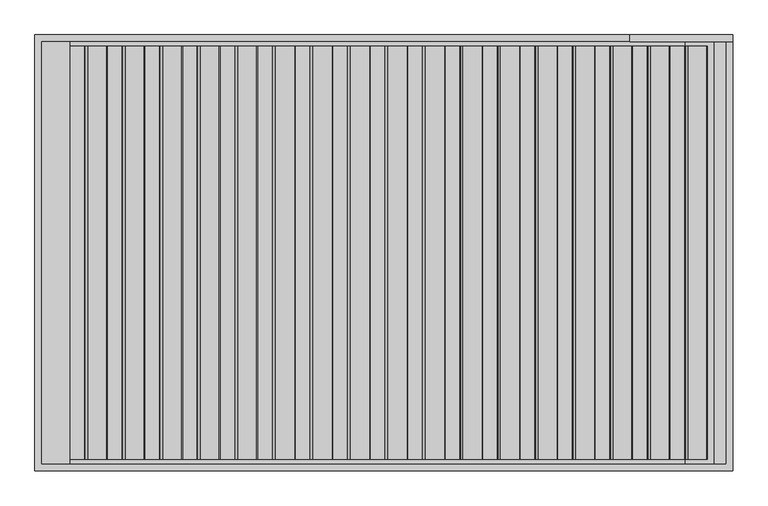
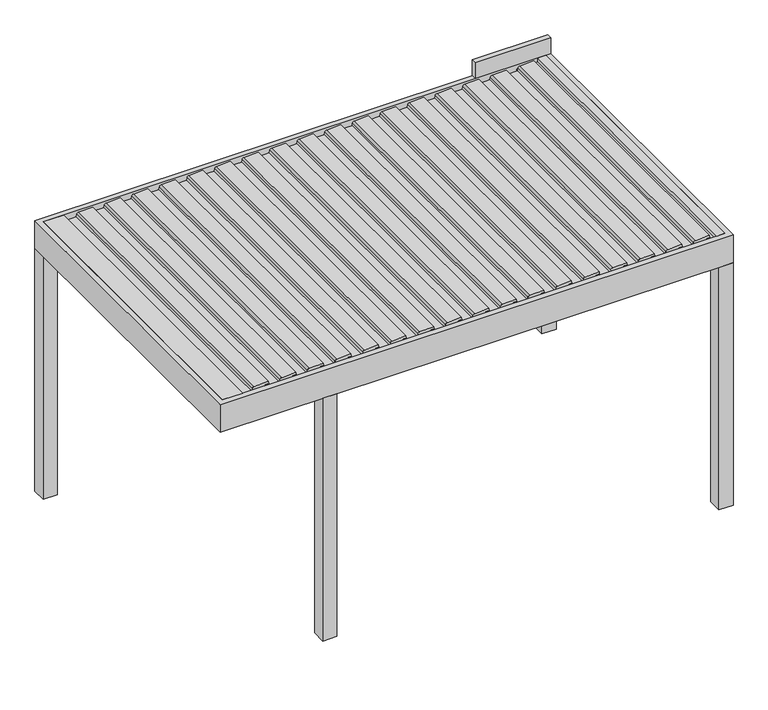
"""IFC4 building model written with IfcOpenShell, lengths in millimetres: proxy geometry, Renson_Algarve_Single : Algarve - Single."""

import ifcopenshell
import ifcopenshell.guid

model = None  # the IFC model being written
_history = None  # IfcOwnerHistory: only IFC2X3 demands one
_inside = {}  # id of a spatial element -> (the spatial element, [elements in it])
_under = {}  # id of a project, library or spatial element -> (it, [spatial elements below it])
_declared = {}  # id of a project -> (the project, [libraries it declares])
_typed = {}  # id of a type object -> (the type object, [elements of that type])
_made_of = {}  # id of a material, layer set ... -> (it, [elements and type objects made of it])


def new_model(schema):
    """Start an empty IFC model of exactly this schema.

    Asked for "IFC4X3", IfcOpenShell would pick the latest addendum, in which some entities
    have other attributes; the version numbers below select the first issue.
    IFC2X3 requires an IfcOwnerHistory on every rooted entity: one is made here for all.
    """
    global model, _history
    if schema == "IFC4X3":
        model = ifcopenshell.file(schema_version=(4, 3, 0, 0))
    else:
        model = ifcopenshell.file(schema=schema)
    _inside.clear()
    _under.clear()
    _declared.clear()
    _typed.clear()
    _made_of.clear()
    _history = None
    if model.schema == "IFC2X3":
        org = make("IfcOrganization", Name="unknown")
        user = make(
            "IfcPersonAndOrganization",
            ThePerson=make("IfcPerson", FamilyName="unknown"),
            TheOrganization=org,
        )
        app = make(
            "IfcApplication",
            ApplicationDeveloper=org,
            Version="unknown",
            ApplicationFullName="unknown",
            ApplicationIdentifier="unknown",
        )
        _history = make(
            "IfcOwnerHistory",
            OwningUser=user,
            OwningApplication=app,
            ChangeAction="ADDED",
            CreationDate=0,
        )
    return model


def make(cls, **values):
    """One entity of the class cls with the attributes given. An attribute that is None is left unset."""
    return model.create_entity(
        cls, **{name: value for name, value in values.items() if value is not None}
    )


def rooted(cls, **values):
    """An entity with a GlobalId (a new one), such as an element, a storey or a relation."""
    return make(cls, GlobalId=ifcopenshell.guid.new(), OwnerHistory=_history, **values)


def si_unit(unit_type, name, prefix=None):
    """IfcSIUnit, for example si_unit("LENGTHUNIT", "METRE", prefix="MILLI")."""
    return make("IfcSIUnit", UnitType=unit_type, Prefix=prefix, Name=name)


def assignment(units):
    """IfcUnitAssignment: the units of a project."""
    return None if units is None else make("IfcUnitAssignment", Units=units)


def point(xyz):
    """IfcCartesianPoint."""
    return None if xyz is None else make("IfcCartesianPoint", Coordinates=xyz)


def direction(xyz):
    """IfcDirection."""
    return None if xyz is None else make("IfcDirection", DirectionRatios=xyz)


def frame(location, z_axis=None, x_axis=None):
    """IfcAxis2Placement3D, a coordinate frame: its origin and axes. An axis left out is left unset."""
    return make(
        "IfcAxis2Placement3D",
        Location=point(location),
        Axis=direction(z_axis),
        RefDirection=direction(x_axis),
    )


def frame_2d(location, x_axis=None):
    """IfcAxis2Placement2D, a coordinate frame in the plane: its origin and x axis."""
    return make(
        "IfcAxis2Placement2D", Location=point(location), RefDirection=direction(x_axis)
    )


def origin():
    """The frame at (0, 0, 0) with its axes left unset."""
    return frame((0.0, 0.0, 0.0))


def origin_with_axes():
    """The frame at (0, 0, 0) with the z axis (0, 0, 1) and the x axis (1, 0, 0) written out."""
    return frame((0.0, 0.0, 0.0), z_axis=(0.0, 0.0, 1.0), x_axis=(1.0, 0.0, 0.0))


def place(relative_to, where):
    """IfcLocalPlacement: puts the frame where relative to a parent placement (None: the world)."""
    return make(
        "IfcLocalPlacement", PlacementRelTo=relative_to, RelativePlacement=where
    )


def context(
    kind, dimensions, precision=None, world=None, true_north=None, identifier=None
):
    """IfcGeometricRepresentationContext, for example the 3D "Model" context."""
    return make(
        "IfcGeometricRepresentationContext",
        ContextIdentifier=identifier,
        ContextType=kind,
        CoordinateSpaceDimension=dimensions,
        Precision=precision,
        WorldCoordinateSystem=world,
        TrueNorth=true_north,
    )


def project(units=None, contexts=None):
    """IfcProject with its units and contexts."""
    return rooted(
        "IfcProject",
        Name="project",
        RepresentationContexts=contexts,
        UnitsInContext=assignment(units),
    )


def spatial(cls, under=None, at=None, **own):
    """A site, building, storey or space (cls), placed at a placement, below another one or the project."""
    s = rooted(cls, ObjectPlacement=at, **own)
    if under is not None:
        _under.setdefault(under.id(), (under, []))[1].append(s)
    return s


def polyline(points):
    """IfcPolyline through the points."""
    return make("IfcPolyline", Points=[point(p) for p in points])


def circle_curve(where, radius):
    """IfcCircle in the frame where."""
    return make("IfcCircle", Position=where, Radius=radius)


def trimmed(basis, trim1, trim2, sense, master):
    """IfcTrimmedCurve: the piece of a basis curve between two trims."""
    return make(
        "IfcTrimmedCurve",
        BasisCurve=basis,
        Trim1=trim1,
        Trim2=trim2,
        SenseAgreement=sense,
        MasterRepresentation=master,
    )


def segment(curve, same_sense, transition):
    """IfcCompositeCurveSegment."""
    return make(
        "IfcCompositeCurveSegment",
        Transition=transition,
        SameSense=same_sense,
        ParentCurve=curve,
    )


def composite_curve(segments, self_intersect=None):
    """IfcCompositeCurve: segments joined end to end."""
    return make("IfcCompositeCurve", Segments=segments, SelfIntersect=self_intersect)


def outline(outer, holes=None, kind="AREA"):
    """IfcArbitraryClosedProfileDef: a profile drawn as a closed curve; with holes, ...WithVoids."""
    if holes is None:
        return make("IfcArbitraryClosedProfileDef", ProfileType=kind, OuterCurve=outer)
    return make(
        "IfcArbitraryProfileDefWithVoids",
        ProfileType=kind,
        OuterCurve=outer,
        InnerCurves=holes,
    )


def extrude(swept, where, along, depth):
    """IfcExtrudedAreaSolid: the profile swept, set in the frame where, extruded along a direction by depth."""
    return make(
        "IfcExtrudedAreaSolid",
        SweptArea=swept,
        Position=where,
        ExtrudedDirection=direction(along),
        Depth=depth,
    )


def faces_of(points, faces, orient=None, outer=None):
    """IfcFace entities. A face is a list of loops; a loop is a list of indices into points, from 0.

    orient and outer hold one flag for each loop. By default every Orientation is true, the
    first loop of a face is its IfcFaceOuterBound and the others are IfcFaceBound.
    """
    made = []
    for i, loops in enumerate(faces):
        bounds = []
        for j, loop in enumerate(loops):
            is_outer = j == 0 if outer is None else outer[i][j]
            bounds.append(
                make(
                    "IfcFaceOuterBound" if is_outer else "IfcFaceBound",
                    Bound=make("IfcPolyLoop", Polygon=[points[k] for k in loop]),
                    Orientation=True if orient is None else orient[i][j],
                )
            )
        made.append(make("IfcFace", Bounds=bounds))
    return made


def faceted_brep(points, faces, orient=None, outer=None, voids=None):
    """IfcFacetedBrep: a solid bounded by flat faces; with voids (closed shells), ...WithVoids."""
    shared = [point(p) for p in points]
    hull = make("IfcClosedShell", CfsFaces=faces_of(shared, faces, orient, outer))
    if voids is None:
        return make("IfcFacetedBrep", Outer=hull)
    return make(
        "IfcFacetedBrepWithVoids",
        Outer=hull,
        Voids=[
            make(cls, CfsFaces=faces_of(shared, fs, o, b)) for cls, fs, o, b in voids
        ],
    )


def shape(context_of_items, identifier, shape_type, items):
    """IfcShapeRepresentation: the items that make up one representation, for example the "Body"."""
    return make(
        "IfcShapeRepresentation",
        ContextOfItems=context_of_items,
        RepresentationIdentifier=identifier,
        RepresentationType=shape_type,
        Items=items,
    )


def source(mapping_origin, context_of_items, identifier, shape_type, items):
    """IfcRepresentationMap: a shape defined once, which mapped items show again and again."""
    return make(
        "IfcRepresentationMap",
        MappingOrigin=mapping_origin,
        MappedRepresentation=shape(context_of_items, identifier, shape_type, items),
    )


def transform(
    local_origin,
    x_axis=None,
    y_axis=None,
    z_axis=None,
    scale=None,
    scale2=None,
    scale3=None,
    uniform=True,
):
    """IfcCartesianTransformationOperator3D, or its non-uniform kind. x_axis, y_axis, z_axis: its Axis1, 2, 3."""
    if uniform:
        return make(
            "IfcCartesianTransformationOperator3D",
            Axis1=direction(x_axis),
            Axis2=direction(y_axis),
            LocalOrigin=point(local_origin),
            Scale=scale,
            Axis3=direction(z_axis),
        )
    return make(
        "IfcCartesianTransformationOperator3DnonUniform",
        Axis1=direction(x_axis),
        Axis2=direction(y_axis),
        LocalOrigin=point(local_origin),
        Scale=scale,
        Axis3=direction(z_axis),
        Scale2=scale2,
        Scale3=scale3,
    )


def mapped(mapping_source, mapping_target):
    """IfcMappedItem: shows the shape of a source again, moved by a transform."""
    return make(
        "IfcMappedItem", MappingSource=mapping_source, MappingTarget=mapping_target
    )


def made_of(thing, what):
    """Note that an element or type object is made of a material, layer set ...; save() writes the relation."""
    if what is not None:
        _made_of.setdefault(what.id(), (what, []))[1].append(thing)
    return thing


def element(
    cls,
    number,
    at=None,
    inside=None,
    cuts=None,
    type_object=None,
    material=None,
    context=None,
    identifier="Body",
    shape_type=None,
    held_by="IfcProductDefinitionShape",
    body=None,
    shapes=None,
    **own,
):
    """One element of the class cls, such as IfcWall. Its Tag is "e" and its number.

    at: its placement. inside: the storey or other place that contains it. cuts: it is an
    opening in that element (IfcRelVoidsElement). A single representation is given by context,
    identifier, shape_type and body (its items); several are given by shapes. held_by: the class
    of the entity that holds the representations. save() writes the other relations.
    """
    e = rooted(cls, Tag="e%d" % number, ObjectPlacement=at, **own)
    if body is not None:
        shapes = [shape(context, identifier, shape_type, body)]
    if shapes is not None:
        e.Representation = make(held_by, Representations=shapes)
    if inside is not None:
        _inside.setdefault(inside.id(), (inside, []))[1].append(e)
    if cuts is not None:
        rooted(
            "IfcRelVoidsElement", RelatingBuildingElement=cuts, RelatedOpeningElement=e
        )
    if type_object is not None:
        _typed.setdefault(type_object.id(), (type_object, []))[1].append(e)
    return made_of(e, material)


def aggregate(whole, parts):
    """IfcRelAggregates: a whole, such as a stair, and the parts it consists of."""
    return rooted("IfcRelAggregates", RelatingObject=whole, RelatedObjects=parts)


def save(model, path):
    """Write the relations noted so far, then the file.

    IfcRelAggregates (storeys below a building ...), IfcRelContainedInSpatialStructure (elements
    in a storey), IfcRelDefinesByType, IfcRelAssociatesMaterial and IfcRelDeclares: one each for
    every whole, place, type object, material and project.
    """
    for whole, parts in _under.values():
        aggregate(whole, parts)
    for where, things in _inside.values():
        rooted(
            "IfcRelContainedInSpatialStructure",
            RelatedElements=things,
            RelatingStructure=where,
        )
    for kind, things in _typed.values():
        rooted("IfcRelDefinesByType", RelatedObjects=things, RelatingType=kind)
    for what, things in _made_of.values():
        rooted("IfcRelAssociatesMaterial", RelatedObjects=things, RelatingMaterial=what)
    for by, libraries in _declared.values():
        rooted("IfcRelDeclares", RelatingContext=by, RelatedDefinitions=libraries)
    model.write(path)


def generic_models_64de8982(model_context):
    return source(origin(), model_context, "Body", "SolidModel", [
        extrude(outline(composite_curve([segment(polyline([(2188.35, 1609.6114167), (2216.01198, 1612.0315264), (2217.3970364, 1640.8667769), (2236.8911096, 1637.4294458), (2231.6075693, 1527.4323309)]), True, "CONTINUOUS"), segment(trimmed(circle_curve(frame_2d((2216.6248435, 1528.1520029)), 15.0), [point((2231.6075693, 1527.4323309))], [point((2219.2295662, 1513.3798866))], False, "CARTESIAN"), True, "CONTINUOUS"), segment(polyline([(2219.2295662, 1513.3798866), (2200.0, 1509.9891952), (2200.0, 1422.2534192), (2217.0788237, 1419.2419618), (2216.3450182, 1403.9649913), (2188.35, 1401.5157446), (2188.35, 1609.6114167)]), True, "CONTINUOUS")], self_intersect=False)), frame((0.0, -1185.0, 0.0), z_axis=(0.0, 1.0, 0.0), x_axis=(0.0, 0.0, 1.0)), (0.0, 0.0, 1.0), 2370.0),
        extrude(outline(composite_curve([segment(polyline([(2188.35, 1394.600612), (2216.01198, 1397.0207216), (2217.3970364, 1425.8559721), (2236.8911096, 1422.418641), (2231.6075693, 1312.4215261)]), True, "CONTINUOUS"), segment(trimmed(circle_curve(frame_2d((2216.6248435, 1313.1411981)), 15.0), [point((2231.6075693, 1312.4215261))], [point((2219.2295662, 1298.3690818))], False, "CARTESIAN"), True, "CONTINUOUS"), segment(polyline([(2219.2295662, 1298.3690818), (2200.0, 1294.9783904), (2200.0, 1207.2426144), (2217.0788237, 1204.231157), (2216.3450182, 1188.9541865), (2188.35, 1186.5049398), (2188.35, 1394.600612)]), True, "CONTINUOUS")], self_intersect=False)), frame((0.0, -1185.0, 0.0), z_axis=(0.0, 1.0, 0.0), x_axis=(0.0, 0.0, 1.0)), (0.0, 0.0, 1.0), 2370.0),
        extrude(outline(composite_curve([segment(polyline([(2188.35, 1179.5898072), (2216.01198, 1182.0099168), (2217.3970364, 1210.8451673), (2236.8911096, 1207.4078362), (2231.6075693, 1097.4107214)]), True, "CONTINUOUS"), segment(trimmed(circle_curve(frame_2d((2216.6248435, 1098.1303933)), 15.0), [point((2231.6075693, 1097.4107214))], [point((2219.2295662, 1083.358277))], False, "CARTESIAN"), True, "CONTINUOUS"), segment(polyline([(2219.2295662, 1083.358277), (2200.0, 1079.9675857), (2200.0, 992.2318096), (2217.0788237, 989.2203522), (2216.3450182, 973.9433817), (2188.35, 971.494135), (2188.35, 1179.5898072)]), True, "CONTINUOUS")], self_intersect=False)), frame((0.0, -1185.0, 0.0), z_axis=(0.0, 1.0, 0.0), x_axis=(0.0, 0.0, 1.0)), (0.0, 0.0, 1.0), 2370.0),
        extrude(outline(composite_curve([segment(polyline([(2188.35, 964.5790024), (2216.01198, 966.999112), (2217.3970364, 995.8343625), (2236.8911096, 992.3970314), (2231.6075693, 882.3999166)]), True, "CONTINUOUS"), segment(trimmed(circle_curve(frame_2d((2216.6248435, 883.1195885)), 15.0), [point((2231.6075693, 882.3999166))], [point((2219.2295662, 868.3474722))], False, "CARTESIAN"), True, "CONTINUOUS"), segment(polyline([(2219.2295662, 868.3474722), (2200.0, 864.9567809), (2200.0, 777.2210048), (2217.0788237, 774.2095474), (2216.3450182, 758.932577), (2188.35, 756.4833302), (2188.35, 964.5790024)]), True, "CONTINUOUS")], self_intersect=False)), frame((0.0, -1185.0, 0.0), z_axis=(0.0, 1.0, 0.0), x_axis=(0.0, 0.0, 1.0)), (0.0, 0.0, 1.0), 2370.0),
        extrude(outline(composite_curve([segment(polyline([(2188.35, 749.5681976), (2216.01198, 751.9883073), (2217.3970364, 780.8235577), (2236.8911096, 777.3862267), (2231.6075693, 667.3891118)]), True, "CONTINUOUS"), segment(trimmed(circle_curve(frame_2d((2216.6248435, 668.1087837)), 15.0), [point((2231.6075693, 667.3891118))], [point((2219.2295662, 653.3366674))], False, "CARTESIAN"), True, "CONTINUOUS"), segment(polyline([(2219.2295662, 653.3366674), (2200.0, 649.9459761), (2200.0, 562.2102001), (2217.0788237, 559.1987426), (2216.3450182, 543.9217722), (2188.35, 541.4725254), (2188.35, 749.5681976)]), True, "CONTINUOUS")], self_intersect=False)), frame((0.0, -1185.0, 0.0), z_axis=(0.0, 1.0, 0.0), x_axis=(0.0, 0.0, 1.0)), (0.0, 0.0, 1.0), 2370.0),
        extrude(outline(composite_curve([segment(polyline([(2188.35, 534.5573928), (2216.01198, 536.9775025), (2217.3970364, 565.8127529), (2236.8911096, 562.3754219), (2231.6075693, 452.378307)]), True, "CONTINUOUS"), segment(trimmed(circle_curve(frame_2d((2216.6248435, 453.0979789)), 15.0), [point((2231.6075693, 452.378307))], [point((2219.2295662, 438.3258627))], False, "CARTESIAN"), True, "CONTINUOUS"), segment(polyline([(2219.2295662, 438.3258627), (2200.0, 434.9351713), (2200.0, 347.1993953), (2217.0788237, 344.1879379), (2216.3450182, 328.9109674), (2188.35, 326.4617207), (2188.35, 534.5573928)]), True, "CONTINUOUS")], self_intersect=False)), frame((0.0, -1185.0, 0.0), z_axis=(0.0, 1.0, 0.0), x_axis=(0.0, 0.0, 1.0)), (0.0, 0.0, 1.0), 2370.0),
        extrude(outline(composite_curve([segment(polyline([(2188.35, 319.546588), (2216.01198, 321.9666977), (2217.3970364, 350.8019482), (2236.8911096, 347.3646171), (2231.6075693, 237.3675022)]), True, "CONTINUOUS"), segment(trimmed(circle_curve(frame_2d((2216.6248435, 238.0871742)), 15.0), [point((2231.6075693, 237.3675022))], [point((2219.2295662, 223.3150579))], False, "CARTESIAN"), True, "CONTINUOUS"), segment(polyline([(2219.2295662, 223.3150579), (2200.0, 219.9243665), (2200.0, 132.1885905), (2217.0788237, 129.1771331), (2216.3450182, 113.9001626), (2188.35, 111.4509159), (2188.35, 319.546588)]), True, "CONTINUOUS")], self_intersect=False)), frame((0.0, -1185.0, 0.0), z_axis=(0.0, 1.0, 0.0), x_axis=(0.0, 0.0, 1.0)), (0.0, 0.0, 1.0), 2370.0),
        extrude(outline(composite_curve([segment(polyline([(2188.35, 104.5357833), (2216.01198, 106.9558929), (2217.3970364, 135.7911434), (2236.8911096, 132.3538123), (2231.6075693, 22.3566975)]), True, "CONTINUOUS"), segment(trimmed(circle_curve(frame_2d((2216.6248435, 23.0763694)), 15.0), [point((2231.6075693, 22.3566975))], [point((2219.2295662, 8.3042531))], False, "CARTESIAN"), True, "CONTINUOUS"), segment(polyline([(2219.2295662, 8.3042531), (2200.0, 4.9135617), (2200.0, -82.8222143), (2217.0788237, -85.8336717), (2216.3450182, -101.1106422), (2188.35, -103.5598889), (2188.35, 104.5357833)]), True, "CONTINUOUS")], self_intersect=False)), frame((0.0, -1185.0, 0.0), z_axis=(0.0, 1.0, 0.0), x_axis=(0.0, 0.0, 1.0)), (0.0, 0.0, 1.0), 2370.0),
        extrude(outline(composite_curve([segment(polyline([(2188.35, -110.4750215), (2216.01198, -108.0549119), (2217.3970364, -79.2196614), (2236.8911096, -82.6569925), (2231.6075693, -192.6541073)]), True, "CONTINUOUS"), segment(trimmed(circle_curve(frame_2d((2216.6248435, -191.9344354)), 15.0), [point((2231.6075693, -192.6541073))], [point((2219.2295662, -206.7065517))], False, "CARTESIAN"), True, "CONTINUOUS"), segment(polyline([(2219.2295662, -206.7065517), (2200.0, -210.097243), (2200.0, -297.8330191), (2217.0788237, -300.8444765), (2216.3450182, -316.121447), (2188.35, -318.5706937), (2188.35, -110.4750215)]), True, "CONTINUOUS")], self_intersect=False)), frame((0.0, -1185.0, 0.0), z_axis=(0.0, 1.0, 0.0), x_axis=(0.0, 0.0, 1.0)), (0.0, 0.0, 1.0), 2370.0),
        extrude(outline(composite_curve([segment(polyline([(2188.35, -325.4858263), (2216.01198, -323.0657166), (2217.3970364, -294.2304662), (2236.8911096, -297.6677973), (2231.6075693, -407.6649121)]), True, "CONTINUOUS"), segment(trimmed(circle_curve(frame_2d((2216.6248435, -406.9452402)), 15.0), [point((2231.6075693, -407.6649121))], [point((2219.2295662, -421.7173565))], False, "CARTESIAN"), True, "CONTINUOUS"), segment(polyline([(2219.2295662, -421.7173565), (2200.0, -425.1080478), (2200.0, -512.8438238), (2217.0788237, -515.8552813), (2216.3450182, -531.1322517), (2188.35, -533.5814985), (2188.35, -325.4858263)]), True, "CONTINUOUS")], self_intersect=False)), frame((0.0, -1185.0, 0.0), z_axis=(0.0, 1.0, 0.0), x_axis=(0.0, 0.0, 1.0)), (0.0, 0.0, 1.0), 2370.0),
        extrude(outline(composite_curve([segment(polyline([(2188.35, -540.4966311), (2216.01198, -538.0765214), (2217.3970364, -509.241271), (2236.8911096, -512.678602), (2231.6075693, -622.6757169)]), True, "CONTINUOUS"), segment(trimmed(circle_curve(frame_2d((2216.6248435, -621.956045)), 15.0), [point((2231.6075693, -622.6757169))], [point((2219.2295662, -636.7281613))], False, "CARTESIAN"), True, "CONTINUOUS"), segment(polyline([(2219.2295662, -636.7281613), (2200.0, -640.1188526), (2200.0, -727.8546286), (2217.0788237, -730.866086), (2216.3450182, -746.1430565), (2188.35, -748.5923032), (2188.35, -540.4966311)]), True, "CONTINUOUS")], self_intersect=False)), frame((0.0, -1185.0, 0.0), z_axis=(0.0, 1.0, 0.0), x_axis=(0.0, 0.0, 1.0)), (0.0, 0.0, 1.0), 2370.0),
        extrude(outline(composite_curve([segment(polyline([(2188.35, -755.5074359), (2216.01198, -753.0873262), (2217.3970364, -724.2520757), (2236.8911096, -727.6894068), (2231.6075693, -837.6865217)]), True, "CONTINUOUS"), segment(trimmed(circle_curve(frame_2d((2216.6248435, -836.9668497)), 15.0), [point((2231.6075693, -837.6865217))], [point((2219.2295662, -851.738966))], False, "CARTESIAN"), True, "CONTINUOUS"), segment(polyline([(2219.2295662, -851.738966), (2200.0, -855.1296574), (2200.0, -942.8654334), (2217.0788237, -945.8768908), (2216.3450182, -961.1538613), (2188.35, -963.603108), (2188.35, -755.5074359)]), True, "CONTINUOUS")], self_intersect=False)), frame((0.0, -1185.0, 0.0), z_axis=(0.0, 1.0, 0.0), x_axis=(0.0, 0.0, 1.0)), (0.0, 0.0, 1.0), 2370.0),
        extrude(outline(composite_curve([segment(polyline([(2188.35, -970.5182406), (2216.01198, -968.098131), (2217.3970364, -939.2628805), (2236.8911096, -942.7002116), (2231.6075693, -1052.6973265)]), True, "CONTINUOUS"), segment(trimmed(circle_curve(frame_2d((2216.6248435, -1051.9776545)), 15.0), [point((2231.6075693, -1052.6973265))], [point((2219.2295662, -1066.7497708))], False, "CARTESIAN"), True, "CONTINUOUS"), segment(polyline([(2219.2295662, -1066.7497708), (2200.0, -1070.1404622), (2200.0, -1157.8762382), (2217.0788237, -1160.8876956), (2216.3450182, -1176.1646661), (2188.35, -1178.6139128), (2188.35, -970.5182406)]), True, "CONTINUOUS")], self_intersect=False)), frame((0.0, -1185.0, 0.0), z_axis=(0.0, 1.0, 0.0), x_axis=(0.0, 0.0, 1.0)), (0.0, 0.0, 1.0), 2370.0),
        extrude(outline(composite_curve([segment(polyline([(2188.35, -1185.5290454), (2216.01198, -1183.1089358), (2217.3970364, -1154.2736853), (2236.8911096, -1157.7110164), (2231.6075693, -1267.7081312)]), True, "CONTINUOUS"), segment(trimmed(circle_curve(frame_2d((2216.6248435, -1266.9884593)), 15.0), [point((2231.6075693, -1267.7081312))], [point((2219.2295662, -1281.7605756))], False, "CARTESIAN"), True, "CONTINUOUS"), segment(polyline([(2219.2295662, -1281.7605756), (2200.0, -1285.1512669), (2200.0, -1372.887043), (2217.0788237, -1375.8985004), (2216.3450182, -1391.1754709), (2188.35, -1393.6247176), (2188.35, -1185.5290454)]), True, "CONTINUOUS")], self_intersect=False)), frame((0.0, -1185.0, 0.0), z_axis=(0.0, 1.0, 0.0), x_axis=(0.0, 0.0, 1.0)), (0.0, 0.0, 1.0), 2370.0),
        extrude(outline(composite_curve([segment(polyline([(2188.35, -1400.5398502), (2216.01198, -1398.1197405), (2217.3970364, -1369.2844901), (2236.8911096, -1372.7218212), (2231.6075693, -1482.718936)]), True, "CONTINUOUS"), segment(trimmed(circle_curve(frame_2d((2216.6248435, -1481.9992641)), 15.0), [point((2231.6075693, -1482.718936))], [point((2219.2295662, -1496.7713804))], False, "CARTESIAN"), True, "CONTINUOUS"), segment(polyline([(2219.2295662, -1496.7713804), (2200.0, -1500.1620717), (2200.0, -1587.8978478), (2217.0788237, -1590.9093052), (2216.3450182, -1606.1862756), (2188.35, -1608.6355224), (2188.35, -1400.5398502)]), True, "CONTINUOUS")], self_intersect=False)), frame((0.0, -1185.0, 0.0), z_axis=(0.0, 1.0, 0.0), x_axis=(0.0, 0.0, 1.0)), (0.0, 0.0, 1.0), 2370.0),
        extrude(outline(composite_curve([segment(polyline([(2188.35, 1824.6222215), (2216.01198, 1827.0423312), (2217.3970364, 1855.8775816), (2236.8911096, 1852.4402506), (2231.6075693, 1742.4431357)]), True, "CONTINUOUS"), segment(trimmed(circle_curve(frame_2d((2216.6248435, 1743.1628076)), 15.0), [point((2231.6075693, 1742.4431357))], [point((2219.2295662, 1728.3906913))], False, "CARTESIAN"), True, "CONTINUOUS"), segment(polyline([(2219.2295662, 1728.3906913), (2200.0, 1725.0), (2200.0, 1637.264224), (2217.0788237, 1634.2527666), (2216.3450182, 1618.9757961), (2188.35, 1616.5265494), (2188.35, 1824.6222215)]), True, "CONTINUOUS")], self_intersect=False)), frame((0.0, -1185.0, 0.0), z_axis=(0.0, 1.0, 0.0), x_axis=(0.0, 0.0, 1.0)), (0.0, 0.0, 1.0), 2370.0),
        extrude(outline(composite_curve([segment(polyline([(2188.35, -1615.550655), (2216.01198, -1613.1305453), (2217.3970364, -1584.2952949), (2236.8911096, -1587.7326259), (2231.6075693, -1697.7297408)]), True, "CONTINUOUS"), segment(trimmed(circle_curve(frame_2d((2216.6248435, -1697.0100689)), 15.0), [point((2231.6075693, -1697.7297408))], [point((2219.2295662, -1711.7821852))], False, "CARTESIAN"), True, "CONTINUOUS"), segment(polyline([(2219.2295662, -1711.7821852), (2200.0, -1715.1728765), (2200.0, -1802.9086525), (2217.0788237, -1805.9201099), (2216.3450182, -1821.1970804), (2188.35, -1823.6463271), (2188.35, -1615.550655)]), True, "CONTINUOUS")], self_intersect=False)), frame((0.0, -1185.0, 0.0), z_axis=(0.0, 1.0, 0.0), x_axis=(0.0, 0.0, 1.0)), (0.0, 0.0, 1.0), 2370.0),
        extrude(outline(polyline([(2168.0, 1960.0), (2230.0, 1960.0), (2230.0, 1896.0), (2198.0, 1896.0), (2198.0, 1730.0), (2168.0, 1730.0), (2168.0, 1960.0)])), frame((0.0, -1210.0, 0.0), z_axis=(0.0, 1.0, 0.0), x_axis=(0.0, 0.0, 1.0)), (0.0, 0.0, 1.0), 2420.0),
        extrude(outline(polyline([(2230.0, -1800.0), (2230.0, -1960.0), (2186.0, -1960.0), (2186.0, -1827.3193336), (2219.1716603, -1824.4171894), (2220.344502, -1800.0), (2230.0, -1800.0)])), frame((0.0, -1210.0, 0.0), z_axis=(0.0, 1.0, 0.0), x_axis=(0.0, 0.0, 1.0)), (0.0, 0.0, 1.0), 2420.0),
        extrude(outline(polyline([(-1090.0, -1250.0), (-1200.0, -1250.0), (-1200.0, -1140.0), (-1090.0, -1140.0), (-1090.0, -1250.0)])), origin_with_axes(), (0.0, 0.0, 1.0), 2000.0),
        faceted_brep([(1890.0, 1140.0, 2057.0), (1890.0, 1140.0, 2000.0), (1890.0, -1140.0, 2000.0), (1890.0, -1140.0, 2057.0), (2000.0, 1250.0, 2000.0), (2000.0, 1250.0, 2230.0), (2000.0, -1250.0, 2230.0), (2000.0, -1250.0, 2000.0), (1960.0, 1210.0, 2230.0), (1960.0, 1210.0, 2057.0), (1960.0, -1210.0, 2057.0), (1960.0, -1210.0, 2230.0), (-1890.0, -1140.0, 2000.0), (-1890.0, -1140.0, 2057.0), (-2000.0, -1250.0, 2230.0), (-2000.0, -1250.0, 2000.0), (-1960.0, -1210.0, 2057.0), (-1960.0, -1210.0, 2230.0), (-1890.0, 1140.0, 2000.0), (-1890.0, 1140.0, 2057.0), (-2000.0, 1250.0, 2230.0), (-2000.0, 1250.0, 2000.0), (-1960.0, 1210.0, 2057.0), (-1960.0, 1210.0, 2230.0)], [[[0, 1, 2, 3]], [[4, 5, 6, 7]], [[8, 9, 10, 11]], [[3, 2, 12, 13]], [[7, 6, 14, 15]], [[11, 10, 16, 17]], [[13, 12, 18, 19]], [[15, 14, 20, 21]], [[17, 16, 22, 23]], [[9, 22, 16, 10], [3, 13, 19, 0]], [[19, 18, 1, 0]], [[7, 15, 21, 4], [1, 18, 12, 2]], [[21, 20, 5, 4]], [[5, 20, 14, 6], [11, 17, 23, 8]], [[23, 22, 9, 8]]]),
        extrude(outline(polyline([(2000.0, 1250.0), (2000.0, 1140.0), (1890.0, 1140.0), (1890.0, 1250.0), (2000.0, 1250.0)])), origin_with_axes(), (0.0, 0.0, 1.0), 2000.0),
        extrude(outline(polyline([(2000.0, -1140.0), (2000.0, -1250.0), (1890.0, -1250.0), (1890.0, -1140.0), (2000.0, -1140.0)])), origin_with_axes(), (0.0, 0.0, 1.0), 2000.0),
        extrude(outline(polyline([(-1890.0, 1250.0), (-1890.0, 1140.0), (-2000.0, 1140.0), (-2000.0, 1250.0), (-1890.0, 1250.0)])), origin_with_axes(), (0.0, 0.0, 1.0), 2000.0),
        extrude(outline(polyline([(2000.0, 1250.0), (2000.0, 1210.0), (1410.0, 1210.0), (1410.0, 1250.0), (2000.0, 1250.0)])), frame((0.0, 0.0, 2230.0), z_axis=(0.0, 0.0, 1.0), x_axis=(1.0, 0.0, 0.0)), (0.0, 0.0, 1.0), 130.0),
    ])


if __name__ == "__main__":
    model = new_model("IFC4")
    model_context = context("Model", 3, world=origin())
    ifc_project = project(units=[si_unit("LENGTHUNIT", "METRE", prefix="MILLI")], contexts=[model_context])
    site = spatial("IfcSite", under=ifc_project)
    building = spatial("IfcBuilding", under=site)
    placement = place(None, origin())
    generic_models_shape = generic_models_64de8982(model_context)
    element("IfcBuildingElementProxy", 1, Name="Renson_Algarve_Single : Algarve - Single", ObjectType="Renson_Algarve_Single : Algarve - Single", at=placement, inside=building, context=model_context, shape_type="MappedRepresentation", body=[
        mapped(generic_models_shape, transform((0.0, 0.0, 0.0), x_axis=(1.0, 0.0, 0.0), y_axis=(0.0, 1.0, 0.0), z_axis=(0.0, 0.0, 1.0))),
    ])
    save(model, "model.ifc")
